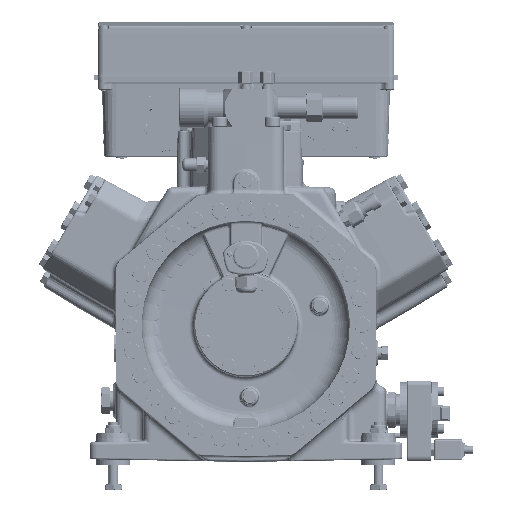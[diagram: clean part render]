
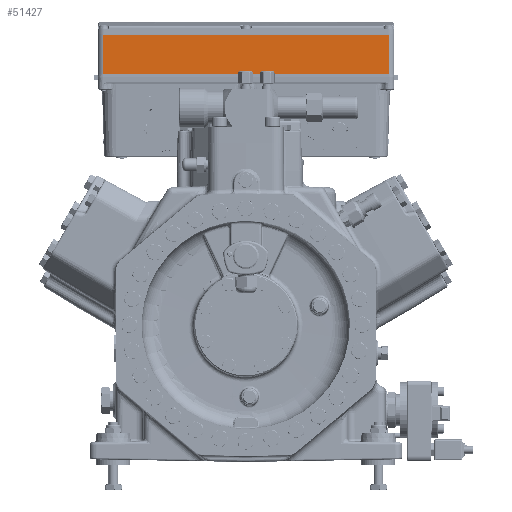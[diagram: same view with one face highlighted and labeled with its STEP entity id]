
A CAD part, front view. The second image highlights one B-rep face of the part: STEP entity #51427.
In plain terms, the highlighted planar face has unit normal (0, -1, 0).
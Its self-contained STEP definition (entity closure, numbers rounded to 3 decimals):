
#32645=LINE('',#285632,#39066);
#32646=LINE('',#285635,#39067);
#32647=LINE('',#285637,#39068);
#32648=LINE('',#285639,#39069);
#39066=VECTOR('',#218661,1.);
#39067=VECTOR('',#218662,1.);
#39068=VECTOR('',#218663,1.);
#39069=VECTOR('',#218664,1.);
#51427=ADVANCED_FACE('',(#65155),#59896,.T.);
#59896=PLANE('',#191716);
#65155=FACE_OUTER_BOUND('',#76115,.T.);
#76115=EDGE_LOOP('',(#103027,#103028,#103029,#103030));
#103027=ORIENTED_EDGE('',*,*,#160742,.F.);
#103028=ORIENTED_EDGE('',*,*,#160743,.T.);
#103029=ORIENTED_EDGE('',*,*,#160744,.T.);
#103030=ORIENTED_EDGE('',*,*,#160745,.T.);
#141283=VERTEX_POINT('',#285633);
#141284=VERTEX_POINT('',#285634);
#141285=VERTEX_POINT('',#285636);
#141286=VERTEX_POINT('',#285638);
#160742=EDGE_CURVE('',#141283,#141284,#32645,.T.);
#160743=EDGE_CURVE('',#141283,#141285,#32646,.T.);
#160744=EDGE_CURVE('',#141285,#141286,#32647,.T.);
#160745=EDGE_CURVE('',#141286,#141284,#32648,.T.);
#191716=AXIS2_PLACEMENT_3D('',#285640,#218665,#218666);
#218661=DIRECTION('',(1.,0.,0.));
#218662=DIRECTION('',(0.,0.,-1.));
#218663=DIRECTION('',(1.,0.,0.));
#218664=DIRECTION('',(0.,0.,1.));
#218665=DIRECTION('',(0.,-1.,0.));
#218666=DIRECTION('',(0.,0.,1.));
#285632=CARTESIAN_POINT('',(-150.5,-87.5,129.));
#285633=CARTESIAN_POINT('',(-150.5,-87.5,129.));
#285634=CARTESIAN_POINT('',(150.5,-87.5,129.));
#285635=CARTESIAN_POINT('',(-150.5,-87.5,81.5));
#285636=CARTESIAN_POINT('',(-150.5,-87.5,81.5));
#285637=CARTESIAN_POINT('',(0.,-87.5,81.5));
#285638=CARTESIAN_POINT('',(150.5,-87.5,81.5));
#285639=CARTESIAN_POINT('',(150.5,-87.5,81.5));
#285640=CARTESIAN_POINT('',(0.,-87.5,81.5));
